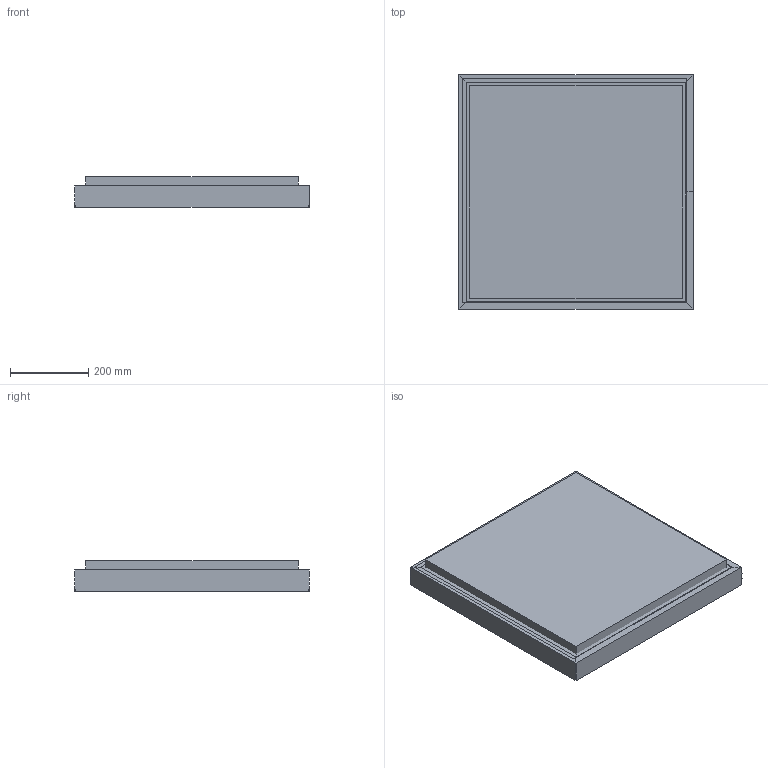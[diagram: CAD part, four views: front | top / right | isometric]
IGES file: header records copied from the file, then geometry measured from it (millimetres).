
Global section: file name: C:\Users\EQUIPO\Desktop\COLECCIONES ACB MODELADAS 3D OK\MUNICH\munich-3759-60-led (IGES).igs; native system: Rhinoceros ( Oct  8 2013 ); preprocessor: Trout Lake IGES 012 Oct  8 2013; date: 190207.110902; units: millimetre
Bounding box: 600 x 600 x 79 mm (x, y, z)
Surface area: 1628103.1 mm2 (no closed solid volume)
Topology: 0 solids, 0 shells, 24 faces, 218 edges, 218 vertices
Faces by surface type: bspline 24
